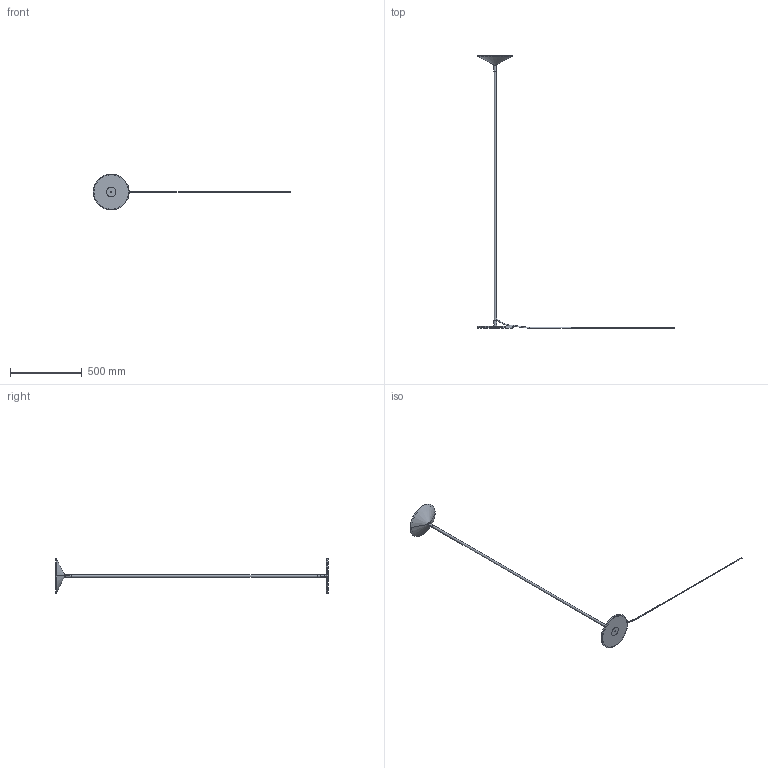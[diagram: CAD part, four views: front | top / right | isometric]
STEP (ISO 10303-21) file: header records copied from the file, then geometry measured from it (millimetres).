
FILE_DESCRIPTION((''),'2;1');
FILE_NAME('MINIMATERRA','2025-05-15T08:48:08',('elena.baldelli'),(''),'CREO PARAMETRIC BY PTC INC, 2020354','CREO PARAMETRIC BY PTC INC, 2020354','');
FILE_SCHEMA(('CONFIG_CONTROL_DESIGN'));
Length unit declared in the file: millimetre
Products named in the file (1): MINIMATERRA
Bounding box: 1375.28 x 1894.87 x 250 mm (x, y, z)
Surface area: 369628 mm2 (no closed solid volume)
Topology: 0 solids, 12 shells, 50 faces, 156 edges, 117 vertices
Faces by surface type: cone 13, torus 12, cylinder 11, plane 10, bspline 4
Entity records: 2863 total; most frequent: CARTESIAN_POINT 1401, DIRECTION 335, ORIENTED_EDGE 233, EDGE_CURVE 156, AXIS2_PLACEMENT_3D 148, VERTEX_POINT 117, CIRCLE 102, EDGE_LOOP 64
